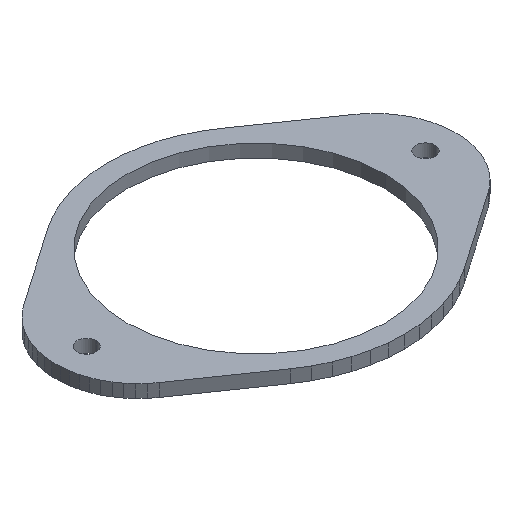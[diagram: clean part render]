
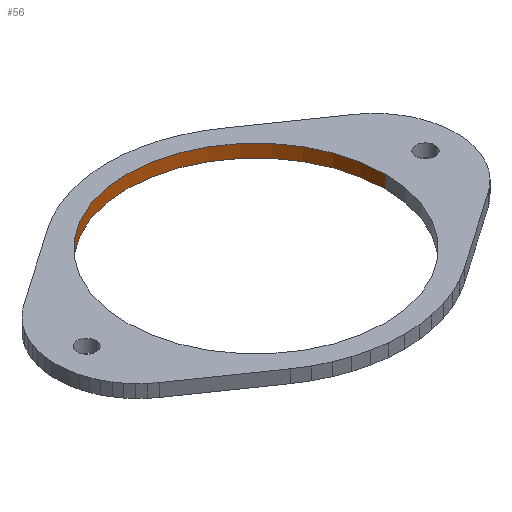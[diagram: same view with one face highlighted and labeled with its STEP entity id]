
A CAD part, isometric view. The second image highlights one B-rep face of the part: STEP entity #56.
In plain terms, the highlighted cylindrical face has radius 20 mm (diameter 40 mm), a partial arc.
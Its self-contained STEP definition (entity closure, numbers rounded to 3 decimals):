
#56=ADVANCED_FACE('',(#137),#138,.F.);
#137=FACE_OUTER_BOUND('',#292,.T.);
#138=CYLINDRICAL_SURFACE('',#293,20.0);
#292=EDGE_LOOP('',(#472,#473,#474,#475));
#293=AXIS2_PLACEMENT_3D('',#476,#477,#478);
#472=ORIENTED_EDGE('',*,*,#1092,.T.);
#473=ORIENTED_EDGE('',*,*,#1108,.F.);
#474=ORIENTED_EDGE('',*,*,#1094,.T.);
#475=ORIENTED_EDGE('',*,*,#1109,.F.);
#476=CARTESIAN_POINT('',(0.003,0.006,7.998));
#477=DIRECTION('',(0.0,0.0,-1.0));
#478=DIRECTION('',(1.0,0.0,0.0));
#1092=EDGE_CURVE('',#1308,#1309,#1310,.T.);
#1094=EDGE_CURVE('',#1313,#1311,#1314,.T.);
#1108=EDGE_CURVE('',#1313,#1309,#1336,.T.);
#1109=EDGE_CURVE('',#1308,#1311,#1337,.T.);
#1308=VERTEX_POINT('',#1668);
#1309=VERTEX_POINT('',#1669);
#1310=LINE('',#1670,#1671);
#1311=VERTEX_POINT('',#1672);
#1313=VERTEX_POINT('',#1674);
#1314=LINE('',#1675,#1676);
#1336=CIRCLE('',#1702,20.0);
#1337=CIRCLE('',#1703,20.0);
#1668=CARTESIAN_POINT('',(20.003,0.006,5.998));
#1669=CARTESIAN_POINT('',(20.003,0.006,7.998));
#1670=CARTESIAN_POINT('',(20.003,0.006,7.998));
#1671=VECTOR('',#2232,1.0);
#1672=CARTESIAN_POINT('',(-19.997,0.006,5.998));
#1674=CARTESIAN_POINT('',(-19.997,0.006,7.998));
#1675=CARTESIAN_POINT('',(-19.997,0.006,7.998));
#1676=VECTOR('',#2236,1.0);
#1702=AXIS2_PLACEMENT_3D('',#2268,#2269,#2270);
#1703=AXIS2_PLACEMENT_3D('',#2271,#2272,#2273);
#2232=DIRECTION('',(-0.0,-0.0,1.0));
#2236=DIRECTION('',(-0.0,-0.0,-1.0));
#2268=CARTESIAN_POINT('',(0.003,0.006,7.998));
#2269=DIRECTION('',(0.0,0.0,-1.0));
#2270=DIRECTION('',(1.0,0.0,0.0));
#2271=CARTESIAN_POINT('',(0.003,0.006,5.998));
#2272=DIRECTION('',(0.0,0.0,1.0));
#2273=DIRECTION('',(1.0,0.0,0.0));
